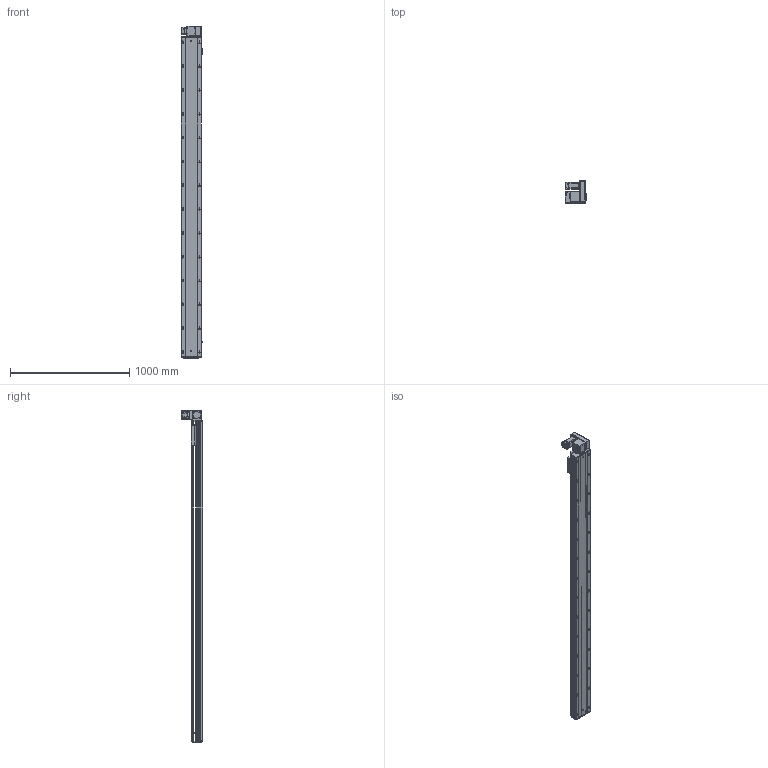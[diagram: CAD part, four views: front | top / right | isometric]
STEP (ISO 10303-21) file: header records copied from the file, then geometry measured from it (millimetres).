
FILE_DESCRIPTION (( 'STEP AP203' ), '1' );
FILE_NAME ('RY170-T-300-UR-P400W.SLDASM_2400.step', '2021-03-01T09:29:43', ( '盈信电脑' ), ( '东莞市道滘镇水果街19号' ), 'SwSTEP 2.0', 'SolidWorks 2012', '' );
FILE_SCHEMA (( 'CONFIG_CONTROL_DESIGN' ));
Products named in the file (18): RY170-T-300-UR-P400W.SLDASM_2400; 15; 滅袉蝶18-10; RY170-T蹟翐M4; RY120-T主同步轮轴承压盖; RY170-T肮祭謫裔啣; RY170-T肮祭湍揤踡輸2; RY170-T肮祭湍揤踡輸1; RY170肮祭謫萇儂欶; RY170同步轮电机安装板(400W); RY170翋肮祭謫釱; 覜茼ん672; RY170外置感应片(200共用）; RY170肮祭謫ヶ裔啣; RY170-T-300肮祭謫倰第裔啣-DR_2400; RY170肮祭湍臏賑輸; RY170-T-300肮祭謫倰第菁釱-DR_2400; RY170綴裔啣
Assembly tree (22 placements, depth 2):
  RY170-T-300-UR-P400W.SLDASM_2400
    RY170-T-300肮祭謫倰第菁釱-DR_2400
    RY170肮祭湍臏賑輸
    RY170-T-300肮祭謫倰第裔啣-DR_2400
    RY170綴裔啣
    覜茼ん672  x3
    RY170外置感应片(200共用）
    RY170肮祭謫ヶ裔啣
    RY170翋肮祭謫釱
    RY170同步轮电机安装板(400W)
    RY170肮祭謫萇儂欶
    RY170-T肮祭湍揤踡輸1  x2
    RY170-T肮祭湍揤踡輸2  x2
    RY120-T主同步轮轴承压盖
    RY170-T肮祭謫裔啣
    RY170-T蹟翐M4
    滅袉蝶18-10  x2
    15
Bounding box: 183.7 x 182 x 2788 mm (x, y, z)
Volume: 12751650.6 mm3; surface area: 4411459.3 mm2
Topology: 22 solids, 22 shells, 3124 faces, 8810 edges, 5605 vertices
Faces by surface type: cylinder 1488, plane 1274, cone 332, bspline 30
Entity records: 96120 total; most frequent: CARTESIAN_POINT 22741, ORIENTED_EDGE 15136, DIRECTION 14652, EDGE_CURVE 7568, AXIS2_PLACEMENT_3D 5226, VERTEX_POINT 4961, LINE 4200, VECTOR 4200
